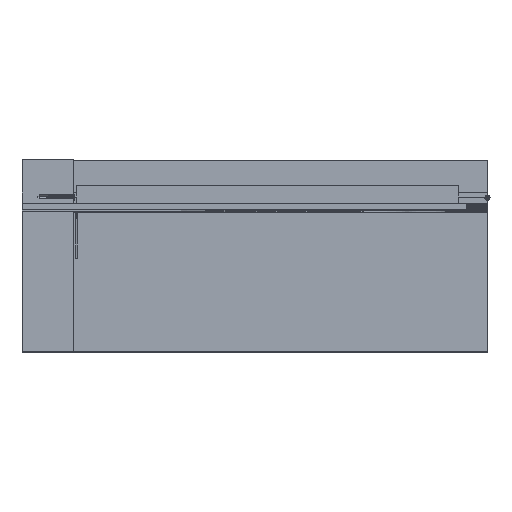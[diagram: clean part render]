
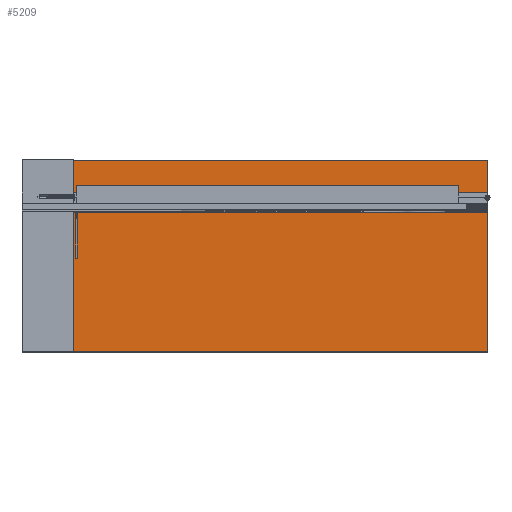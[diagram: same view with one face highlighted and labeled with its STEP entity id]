
A CAD part, top view. The second image highlights one B-rep face of the part: STEP entity #5209.
In plain terms, the highlighted planar face has unit normal (0, 0, 1).
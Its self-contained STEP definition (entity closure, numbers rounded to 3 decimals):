
#313 = ORIENTED_EDGE ( 'NONE', *, *, #32665, .T. ) ;
#473 = EDGE_CURVE ( 'NONE', #27167, #28215, #22060, .T. ) ;
#1511 = CARTESIAN_POINT ( 'NONE',  ( 650., 300., 0. ) ) ;
#1667 = FACE_OUTER_BOUND ( 'NONE', #8294, .T. ) ;
#2337 = VECTOR ( 'NONE', #15861, 1000. ) ;
#2370 = ORIENTED_EDGE ( 'NONE', *, *, #19668, .F. ) ;
#2481 = AXIS2_PLACEMENT_3D ( 'NONE', #5394, #2889, #22539 ) ;
#2632 = EDGE_CURVE ( 'NONE', #7723, #24867, #6473, .T. ) ;
#2716 = CARTESIAN_POINT ( 'NONE',  ( 650., 300., 0. ) ) ;
#2889 = DIRECTION ( 'NONE',  ( 0., 0., -1. ) ) ;
#3290 = VERTEX_POINT ( 'NONE', #18001 ) ;
#3365 = CARTESIAN_POINT ( 'NONE',  ( 50., 242., 0. ) ) ;
#3390 = CIRCLE ( 'NONE', #28576, 3.1 ) ;
#4029 = VERTEX_POINT ( 'NONE', #17543 ) ;
#4129 = CARTESIAN_POINT ( 'NONE',  ( 0., 300., 0. ) ) ;
#4876 = EDGE_LOOP ( 'NONE', ( #30750, #7141 ) ) ;
#5209 = ADVANCED_FACE ( 'NONE', ( #21976, #1667, #32366, #29517 ), #32194, .F. ) ;
#5348 = CARTESIAN_POINT ( 'NONE',  ( 0., 300., 0. ) ) ;
#5357 = CARTESIAN_POINT ( 'NONE',  ( 100., 242., 0. ) ) ;
#5394 = CARTESIAN_POINT ( 'NONE',  ( 650., 242., 0. ) ) ;
#6370 = AXIS2_PLACEMENT_3D ( 'NONE', #19391, #6620, #16857 ) ;
#6473 = LINE ( 'NONE', #4129, #15196 ) ;
#6496 = ORIENTED_EDGE ( 'NONE', *, *, #20423, .F. ) ;
#6620 = DIRECTION ( 'NONE',  ( 0., 0., -1. ) ) ;
#6697 = LINE ( 'NONE', #1511, #13014 ) ;
#7141 = ORIENTED_EDGE ( 'NONE', *, *, #27767, .T. ) ;
#7428 = ORIENTED_EDGE ( 'NONE', *, *, #7677, .F. ) ;
#7561 = AXIS2_PLACEMENT_3D ( 'NONE', #30989, #12392, #30652 ) ;
#7573 = CARTESIAN_POINT ( 'NONE',  ( 650., 0., 0. ) ) ;
#7677 = EDGE_CURVE ( 'NONE', #8466, #24787, #27356, .T. ) ;
#7723 = VERTEX_POINT ( 'NONE', #5348 ) ;
#7733 = DIRECTION ( 'NONE',  ( 1., 0., 0. ) ) ;
#8294 = EDGE_LOOP ( 'NONE', ( #313, #2370, #6496, #13659, #23022, #7428 ) ) ;
#8466 = VERTEX_POINT ( 'NONE', #14673 ) ;
#9207 = DIRECTION ( 'NONE',  ( 0., -1., 0. ) ) ;
#9281 = DIRECTION ( 'NONE',  ( -1., 0., 0. ) ) ;
#9373 = CARTESIAN_POINT ( 'NONE',  ( 0., 300., 0. ) ) ;
#9585 = ORIENTED_EDGE ( 'NONE', *, *, #17758, .T. ) ;
#10605 = CIRCLE ( 'NONE', #31493, 3.1 ) ;
#10642 = CARTESIAN_POINT ( 'NONE',  ( 96.9, 242., 0. ) ) ;
#12086 = CARTESIAN_POINT ( 'NONE',  ( 650., 300., 0. ) ) ;
#12392 = DIRECTION ( 'NONE',  ( 0., 0., -1. ) ) ;
#13014 = VECTOR ( 'NONE', #9207, 1000. ) ;
#13189 = VERTEX_POINT ( 'NONE', #22910 ) ;
#13659 = ORIENTED_EDGE ( 'NONE', *, *, #2632, .T. ) ;
#14015 = CIRCLE ( 'NONE', #31686, 3.1 ) ;
#14673 = CARTESIAN_POINT ( 'NONE',  ( 650., 238.9, 0. ) ) ;
#14689 = EDGE_CURVE ( 'NONE', #30292, #3290, #3390, .T. ) ;
#14991 = VECTOR ( 'NONE', #7733, 1000. ) ;
#15196 = VECTOR ( 'NONE', #32479, 1000. ) ;
#15861 = DIRECTION ( 'NONE',  ( 1., 0., 0. ) ) ;
#16028 = EDGE_CURVE ( 'NONE', #24867, #24787, #31205, .T. ) ;
#16773 = DIRECTION ( 'NONE',  ( 0., -1., 0. ) ) ;
#16857 = DIRECTION ( 'NONE',  ( -1., 0., 0. ) ) ;
#16890 = VERTEX_POINT ( 'NONE', #10642 ) ;
#17543 = CARTESIAN_POINT ( 'NONE',  ( 103.1, 242., 0. ) ) ;
#17758 = EDGE_CURVE ( 'NONE', #4029, #16890, #20370, .T. ) ;
#18001 = CARTESIAN_POINT ( 'NONE',  ( 46.9, 242., 0. ) ) ;
#18443 = DIRECTION ( 'NONE',  ( 0., 0., -1. ) ) ;
#19391 = CARTESIAN_POINT ( 'NONE',  ( 100., 242., 0. ) ) ;
#19451 = DIRECTION ( 'NONE',  ( -1., 0., 0. ) ) ;
#19668 = EDGE_CURVE ( 'NONE', #27854, #13189, #6697, .T. ) ;
#19869 = CARTESIAN_POINT ( 'NONE',  ( 50., 242., 0. ) ) ;
#20339 = CARTESIAN_POINT ( 'NONE',  ( 0., 0., 0. ) ) ;
#20370 = CIRCLE ( 'NONE', #26337, 3.1 ) ;
#20423 = EDGE_CURVE ( 'NONE', #7723, #27854, #26111, .T. ) ;
#20747 = CARTESIAN_POINT ( 'NONE',  ( 0., 300., 0. ) ) ;
#20817 = ORIENTED_EDGE ( 'NONE', *, *, #14689, .T. ) ;
#21541 = ORIENTED_EDGE ( 'NONE', *, *, #31217, .T. ) ;
#21976 = FACE_BOUND ( 'NONE', #28841, .T. ) ;
#22060 = CIRCLE ( 'NONE', #7561, 3.1 ) ;
#22148 = ORIENTED_EDGE ( 'NONE', *, *, #23866, .T. ) ;
#22371 = DIRECTION ( 'NONE',  ( -1., 0., 0. ) ) ;
#22472 = CIRCLE ( 'NONE', #6370, 3.1 ) ;
#22539 = DIRECTION ( 'NONE',  ( -1., 0., 0. ) ) ;
#22910 = CARTESIAN_POINT ( 'NONE',  ( 650., 245.1, 0. ) ) ;
#23022 = ORIENTED_EDGE ( 'NONE', *, *, #16028, .T. ) ;
#23849 = DIRECTION ( 'NONE',  ( 0., 0., -1. ) ) ;
#23866 = EDGE_CURVE ( 'NONE', #3290, #30292, #14015, .T. ) ;
#23932 = CIRCLE ( 'NONE', #2481, 3.1 ) ;
#24008 = CARTESIAN_POINT ( 'NONE',  ( 53.1, 242., 0. ) ) ;
#24787 = VERTEX_POINT ( 'NONE', #7573 ) ;
#24867 = VERTEX_POINT ( 'NONE', #20339 ) ;
#24886 = CARTESIAN_POINT ( 'NONE',  ( 250., 242., 0. ) ) ;
#25716 = VECTOR ( 'NONE', #16773, 1000. ) ;
#26010 = DIRECTION ( 'NONE',  ( -1., 0., 0. ) ) ;
#26111 = LINE ( 'NONE', #20747, #2337 ) ;
#26337 = AXIS2_PLACEMENT_3D ( 'NONE', #5357, #18443, #26010 ) ;
#26663 = DIRECTION ( 'NONE',  ( 0., 0., -1. ) ) ;
#27085 = DIRECTION ( 'NONE',  ( 0., 0., -1. ) ) ;
#27167 = VERTEX_POINT ( 'NONE', #27183 ) ;
#27183 = CARTESIAN_POINT ( 'NONE',  ( 253.1, 242., 0. ) ) ;
#27356 = LINE ( 'NONE', #12086, #25716 ) ;
#27767 = EDGE_CURVE ( 'NONE', #28215, #27167, #10605, .T. ) ;
#27854 = VERTEX_POINT ( 'NONE', #2716 ) ;
#28215 = VERTEX_POINT ( 'NONE', #29861 ) ;
#28576 = AXIS2_PLACEMENT_3D ( 'NONE', #19869, #27085, #9281 ) ;
#28841 = EDGE_LOOP ( 'NONE', ( #20817, #22148 ) ) ;
#29038 = DIRECTION ( 'NONE',  ( -1., 0., 0. ) ) ;
#29517 = FACE_BOUND ( 'NONE', #4876, .T. ) ;
#29861 = CARTESIAN_POINT ( 'NONE',  ( 246.9, 242., 0. ) ) ;
#30292 = VERTEX_POINT ( 'NONE', #24008 ) ;
#30472 = AXIS2_PLACEMENT_3D ( 'NONE', #9373, #26663, #19451 ) ;
#30547 = CARTESIAN_POINT ( 'NONE',  ( 0., 0., 0. ) ) ;
#30652 = DIRECTION ( 'NONE',  ( -1., 0., 0. ) ) ;
#30750 = ORIENTED_EDGE ( 'NONE', *, *, #473, .T. ) ;
#30989 = CARTESIAN_POINT ( 'NONE',  ( 250., 242., 0. ) ) ;
#30990 = EDGE_LOOP ( 'NONE', ( #9585, #21541 ) ) ;
#31205 = LINE ( 'NONE', #30547, #14991 ) ;
#31217 = EDGE_CURVE ( 'NONE', #16890, #4029, #22472, .T. ) ;
#31493 = AXIS2_PLACEMENT_3D ( 'NONE', #24886, #32257, #22371 ) ;
#31686 = AXIS2_PLACEMENT_3D ( 'NONE', #3365, #23849, #29038 ) ;
#32194 = PLANE ( 'NONE',  #30472 ) ;
#32257 = DIRECTION ( 'NONE',  ( 0., 0., -1. ) ) ;
#32366 = FACE_BOUND ( 'NONE', #30990, .T. ) ;
#32479 = DIRECTION ( 'NONE',  ( 0., -1., 0. ) ) ;
#32665 = EDGE_CURVE ( 'NONE', #8466, #13189, #23932, .T. ) ;
